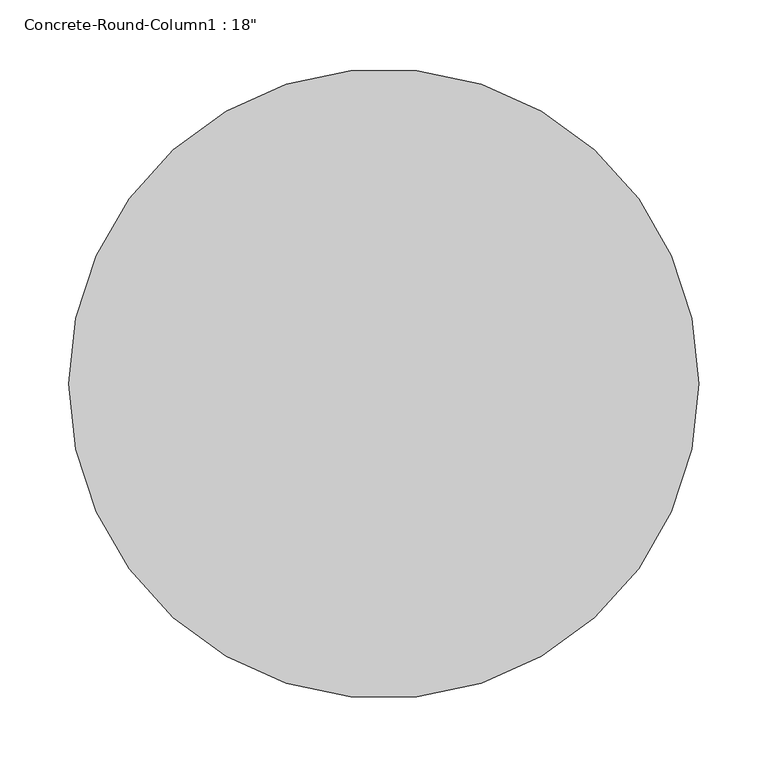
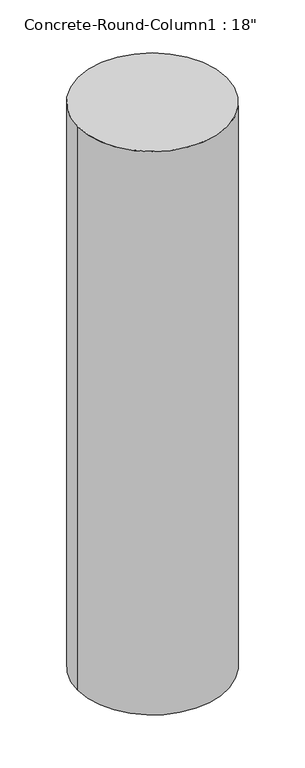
"""IFC4 building model written with IfcOpenShell, lengths in millimetres: column geometry."""

from ifc_helpers import new_model, si_unit, point, frame, origin, origin_2d, place, context, project, spatial, circle_curve, trimmed, segment, composite_curve, outline, extrude, source, transform, mapped, element, save


def column_5a4f3ead(model_context):
    return source(origin(), model_context, "Body", "SweptSolid", [
        extrude(outline(composite_curve([segment(trimmed(circle_curve(origin_2d(), 228.6), [point((-228.6, 0.0))], [point((228.6, 0.0))], False, "CARTESIAN"), True, "CONTINUOUS"), segment(trimmed(circle_curve(origin_2d(), 228.6), [point((228.6, 0.0))], [point((-228.6, 0.0))], False, "CARTESIAN"), True, "CONTINUOUS")], self_intersect=False)), frame((0.0, 0.0, -1219.2), z_axis=(0.0, 0.0, 1.0), x_axis=(1.0, 0.0, 0.0)), (0.0, 0.0, 1.0), 1828.8),
    ])


if __name__ == "__main__":
    model = new_model("IFC4")
    model_context = context("Model", 3, world=origin())
    ifc_project = project(units=[si_unit("LENGTHUNIT", "METRE", prefix="MILLI")], contexts=[model_context])
    site = spatial("IfcSite", under=ifc_project)
    building = spatial("IfcBuilding", under=site)
    placement = place(None, origin())
    column_shape = column_5a4f3ead(model_context)
    element("IfcColumn", 1, ObjectType="Concrete-Round-Column1 : 18\"", at=placement, inside=building, context=model_context, shape_type="MappedRepresentation", body=[
        mapped(column_shape, transform((0.0, 0.0, 0.0), x_axis=(1.0, 0.0, 0.0), y_axis=(0.0, 1.0, 0.0), z_axis=(0.0, 0.0, 1.0))),
    ])
    save(model, "model.ifc")
